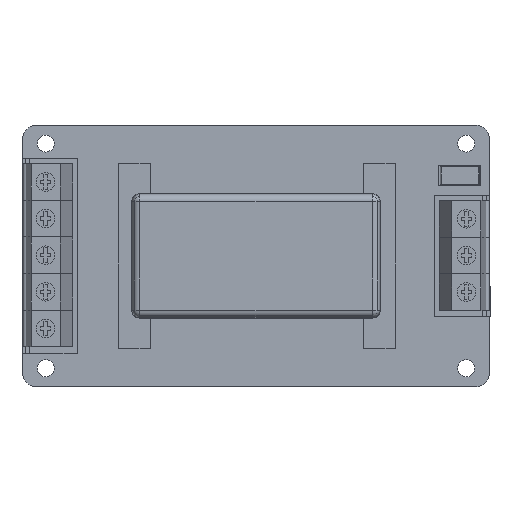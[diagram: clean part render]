
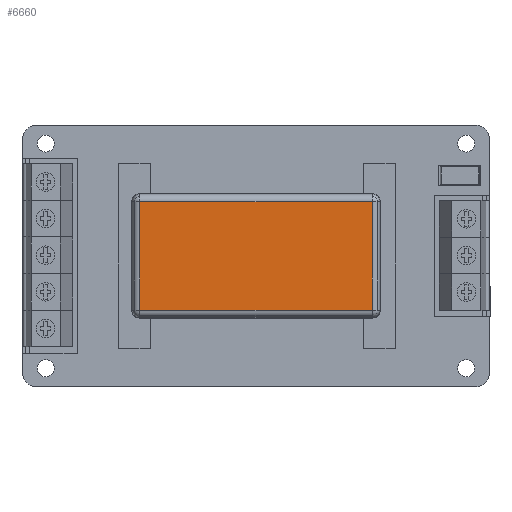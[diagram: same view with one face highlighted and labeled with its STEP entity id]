
A CAD part, top view. The second image highlights one B-rep face of the part: STEP entity #6660.
In plain terms, the highlighted planar face has unit normal (0, 0, 1).
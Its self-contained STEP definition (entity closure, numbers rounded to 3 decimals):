
#668=PLANE($,#7177);
#979=FACE_OUTER_BOUND($,#1423,.T.);
#1423=EDGE_LOOP($,(#5995,#5996,#5997,#5998));
#2199=LINE($,#10768,#2906);
#2200=LINE($,#10770,#2907);
#2201=LINE($,#10772,#2908);
#2202=LINE($,#10773,#2909);
#2906=VECTOR($,#8850,47.634);
#2907=VECTOR($,#8851,22.234);
#2908=VECTOR($,#8852,47.634);
#2909=VECTOR($,#8853,22.234);
#3488=VERTEX_POINT($,#10766);
#3489=VERTEX_POINT($,#10767);
#3490=VERTEX_POINT($,#10769);
#3491=VERTEX_POINT($,#10771);
#4339=EDGE_CURVE($,#3488,#3489,#2199,.T.);
#4340=EDGE_CURVE($,#3490,#3488,#2200,.T.);
#4341=EDGE_CURVE($,#3491,#3490,#2201,.T.);
#4342=EDGE_CURVE($,#3489,#3491,#2202,.T.);
#5995=ORIENTED_EDGE($,*,*,#4339,.F.);
#5996=ORIENTED_EDGE($,*,*,#4340,.F.);
#5997=ORIENTED_EDGE($,*,*,#4341,.F.);
#5998=ORIENTED_EDGE($,*,*,#4342,.F.);
#6660=ADVANCED_FACE($,(#979),#668,.T.);
#7177=AXIS2_PLACEMENT_3D($,#10765,#8848,#8849);
#8848=DIRECTION('center_axis',(0.,0.,1.));
#8849=DIRECTION('ref_axis',(1.,0.,0.));
#8850=DIRECTION($,(-1.,0.,0.));
#8851=DIRECTION($,(0.,-1.,0.));
#8852=DIRECTION($,(1.,0.,0.));
#8853=DIRECTION($,(0.,1.,0.));
#10765=CARTESIAN_POINT('Origin',(25.4,12.7,11.));
#10766=CARTESIAN_POINT('',(49.217,1.583,11.));
#10767=CARTESIAN_POINT('',(1.583,1.583,11.));
#10768=CARTESIAN_POINT($,(38.1,1.583,11.));
#10769=CARTESIAN_POINT('',(49.217,23.817,11.));
#10770=CARTESIAN_POINT($,(49.217,19.05,11.));
#10771=CARTESIAN_POINT('',(1.583,23.817,11.));
#10772=CARTESIAN_POINT($,(12.7,23.817,11.));
#10773=CARTESIAN_POINT($,(1.583,6.35,11.));
